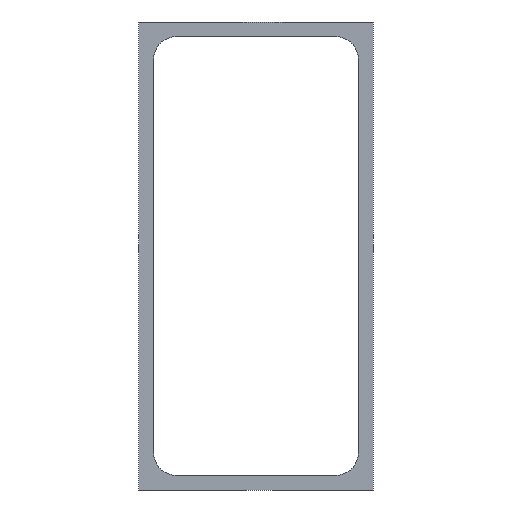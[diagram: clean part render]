
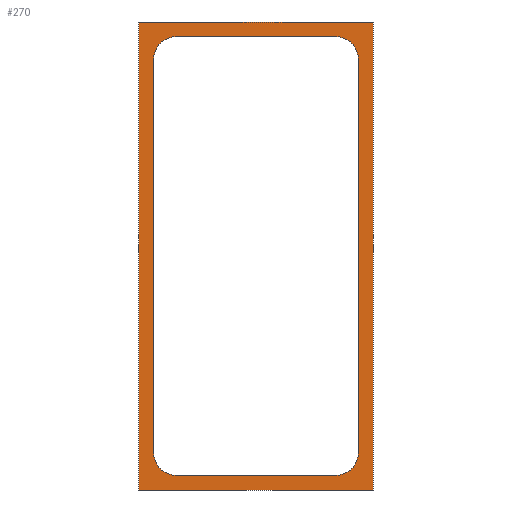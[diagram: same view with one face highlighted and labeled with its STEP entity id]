
A CAD part, front view. The second image highlights one B-rep face of the part: STEP entity #270.
In plain terms, the highlighted planar face has unit normal (0, -1, 0).
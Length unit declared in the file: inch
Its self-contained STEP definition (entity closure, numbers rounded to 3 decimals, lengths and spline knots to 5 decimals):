
#16=FACE_BOUND('',#56,.T.);
#26=PLANE('',#306);
#40=FACE_OUTER_BOUND('',#55,.T.);
#55=EDGE_LOOP('',(#241,#242,#243,#244));
#56=EDGE_LOOP('',(#245,#246,#247,#248,#249,#250,#251,#252));
#59=LINE('',#393,#87);
#63=LINE('',#405,#91);
#67=LINE('',#417,#95);
#72=LINE('',#429,#100);
#73=LINE('',#433,#101);
#77=LINE('',#441,#105);
#80=LINE('',#447,#108);
#83=LINE('',#452,#111);
#87=VECTOR('',#319,0.3937);
#91=VECTOR('',#331,0.3937);
#95=VECTOR('',#343,0.3937);
#100=VECTOR('',#356,0.3937);
#101=VECTOR('',#359,0.3937);
#105=VECTOR('',#365,0.3937);
#108=VECTOR('',#370,0.3937);
#111=VECTOR('',#375,0.3937);
#113=CIRCLE('',#286,0.0975);
#115=CIRCLE('',#290,0.0975);
#117=CIRCLE('',#294,0.0975);
#119=CIRCLE('',#298,0.0975);
#121=VERTEX_POINT('',#383);
#122=VERTEX_POINT('',#384);
#125=VERTEX_POINT('',#392);
#127=VERTEX_POINT('',#398);
#129=VERTEX_POINT('',#404);
#131=VERTEX_POINT('',#410);
#133=VERTEX_POINT('',#416);
#135=VERTEX_POINT('',#422);
#137=VERTEX_POINT('',#431);
#138=VERTEX_POINT('',#432);
#141=VERTEX_POINT('',#440);
#143=VERTEX_POINT('',#446);
#145=EDGE_CURVE('',#121,#122,#113,.T.);
#149=EDGE_CURVE('',#122,#125,#59,.T.);
#152=EDGE_CURVE('',#125,#127,#115,.T.);
#155=EDGE_CURVE('',#127,#129,#63,.T.);
#158=EDGE_CURVE('',#129,#131,#117,.T.);
#161=EDGE_CURVE('',#131,#133,#67,.T.);
#164=EDGE_CURVE('',#133,#135,#119,.T.);
#168=EDGE_CURVE('',#135,#121,#72,.T.);
#169=EDGE_CURVE('',#137,#138,#73,.T.);
#173=EDGE_CURVE('',#141,#137,#77,.T.);
#176=EDGE_CURVE('',#143,#141,#80,.T.);
#179=EDGE_CURVE('',#138,#143,#83,.T.);
#241=ORIENTED_EDGE('',*,*,#179,.F.);
#242=ORIENTED_EDGE('',*,*,#169,.F.);
#243=ORIENTED_EDGE('',*,*,#173,.F.);
#244=ORIENTED_EDGE('',*,*,#176,.F.);
#245=ORIENTED_EDGE('',*,*,#145,.F.);
#246=ORIENTED_EDGE('',*,*,#168,.F.);
#247=ORIENTED_EDGE('',*,*,#164,.F.);
#248=ORIENTED_EDGE('',*,*,#161,.F.);
#249=ORIENTED_EDGE('',*,*,#158,.F.);
#250=ORIENTED_EDGE('',*,*,#155,.F.);
#251=ORIENTED_EDGE('',*,*,#152,.F.);
#252=ORIENTED_EDGE('',*,*,#149,.F.);
#270=ADVANCED_FACE('',(#40,#16),#26,.F.);
#286=AXIS2_PLACEMENT_3D('',#385,#311,#312);
#290=AXIS2_PLACEMENT_3D('',#399,#324,#325);
#294=AXIS2_PLACEMENT_3D('',#411,#336,#337);
#298=AXIS2_PLACEMENT_3D('',#423,#348,#349);
#306=AXIS2_PLACEMENT_3D('',#455,#379,#380);
#311=DIRECTION('center_axis',(0.,-1.,0.));
#312=DIRECTION('ref_axis',(-0.707,0.,-0.707));
#319=DIRECTION('',(1.,0.,0.));
#324=DIRECTION('center_axis',(0.,-1.,0.));
#325=DIRECTION('ref_axis',(0.707,0.,-0.707));
#331=DIRECTION('',(0.,0.,1.));
#336=DIRECTION('center_axis',(0.,-1.,0.));
#337=DIRECTION('ref_axis',(0.707,0.,0.707));
#343=DIRECTION('',(-1.,0.,0.));
#348=DIRECTION('center_axis',(0.,-1.,0.));
#349=DIRECTION('ref_axis',(-0.707,0.,0.707));
#356=DIRECTION('',(0.,0.,-1.));
#359=DIRECTION('',(1.,0.,0.));
#365=DIRECTION('',(0.,0.,1.));
#370=DIRECTION('',(-1.,0.,0.));
#375=DIRECTION('',(0.,0.,-1.));
#379=DIRECTION('center_axis',(0.,1.,0.));
#380=DIRECTION('ref_axis',(1.,0.,0.));
#383=CARTESIAN_POINT('',(-0.4375,0.,-0.84));
#384=CARTESIAN_POINT('',(-0.34,0.,-0.9375));
#385=CARTESIAN_POINT('Origin',(-0.34,0.,-0.84));
#392=CARTESIAN_POINT('',(0.34,0.,-0.9375));
#393=CARTESIAN_POINT('',(0.4375,0.,-0.9375));
#398=CARTESIAN_POINT('',(0.4375,0.,-0.84));
#399=CARTESIAN_POINT('Origin',(0.34,0.,-0.84));
#404=CARTESIAN_POINT('',(0.4375,0.,0.84));
#405=CARTESIAN_POINT('',(0.4375,0.,0.9375));
#410=CARTESIAN_POINT('',(0.34,0.,0.9375));
#411=CARTESIAN_POINT('Origin',(0.34,0.,0.84));
#416=CARTESIAN_POINT('',(-0.34,0.,0.9375));
#417=CARTESIAN_POINT('',(-0.4375,0.,0.9375));
#422=CARTESIAN_POINT('',(-0.4375,0.,0.84));
#423=CARTESIAN_POINT('Origin',(-0.34,0.,0.84));
#429=CARTESIAN_POINT('',(-0.4375,0.,-0.9375));
#431=CARTESIAN_POINT('',(-0.5,0.,1.));
#432=CARTESIAN_POINT('',(0.5,0.,1.));
#433=CARTESIAN_POINT('',(-0.5,0.,1.));
#440=CARTESIAN_POINT('',(-0.5,0.,-1.));
#441=CARTESIAN_POINT('',(-0.5,0.,-1.));
#446=CARTESIAN_POINT('',(0.5,0.,-1.));
#447=CARTESIAN_POINT('',(0.5,0.,-1.));
#452=CARTESIAN_POINT('',(0.5,0.,1.));
#455=CARTESIAN_POINT('Origin',(0.,0.,0.));
